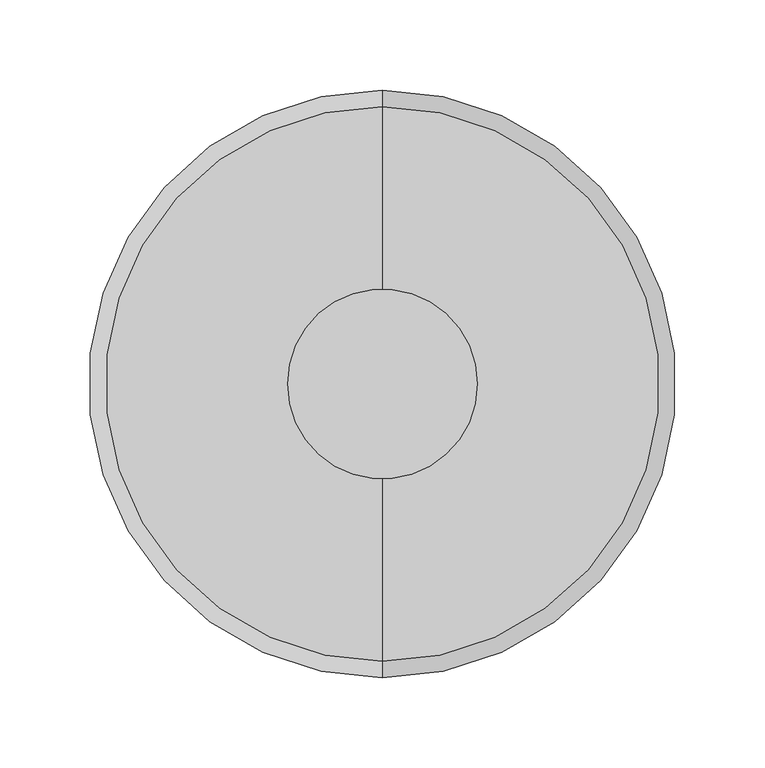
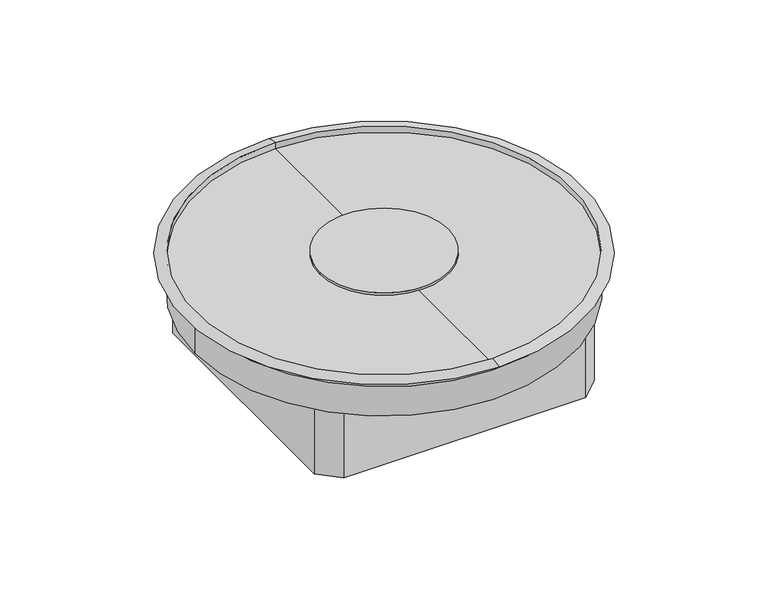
"""IFC4 building model written with IfcOpenShell, lengths in millimetres: proxy geometry, Electrical_Installation_Hager_VE-EE_VANR_3mm_Service-unit-for-wet-cleaned-floors-for-the-installation-tube-cable-outlet-made-of-aluminium : Service unit R12 w wet BD wet Al-Tub 3mm."""

from ifc_helpers import new_model, si_unit, point, frame, origin, origin_with_axes, origin_2d, place, context, project, spatial, polyline, circle_curve, ellipse_curve, trimmed, segment, composite_curve, outline, extrude, source, transform, mapped, element, save
from ifc_brep_helpers import plane_surface, cylinder_surface, revolved_surface, advanced_brep


def electrical_fixtures_e9da0c22(model_context):
    return source(origin(), model_context, "Body", "SolidModel", [
        extrude(outline(composite_curve([segment(trimmed(circle_curve(origin_2d(), 52.5), [point((52.5, 0.0))], [point((-52.5, 0.0))], False, "CARTESIAN"), True, "CONTINUOUS"), segment(trimmed(circle_curve(origin_2d(), 52.5), [point((-52.5, 0.0))], [point((52.5, 0.0))], False, "CARTESIAN"), True, "CONTINUOUS")], self_intersect=False)), origin_with_axes(), (0.0, 0.0, 1.0), 2.0),
        advanced_brep(
        [(-154.0, 0.0, -33.0), (154.0, 0.0, -33.0), (-114.5, -96.120731, -33.0), (-96.120731, -114.5, -33.0), (96.120731, -114.5, -33.0), (114.5, -96.120731, -33.0), (114.5, 96.120731, -33.0), (96.120731, 114.5, -33.0), (-96.120731, 114.5, -33.0), (-114.5, 96.120731, -33.0), (154.0, 0.0, -7.8389514), (0.0, -154.0, -7.8389514), (-154.0, 0.0, -7.8389514), (0.0, 154.0, -7.8389514), (-114.5, 96.120731, -7.8389514), (-114.5, -96.120731, -7.8389514), (-96.120731, 114.5, -7.8389514), (96.120731, 114.5, -7.8389514), (0.0, 114.5, -7.8389514), (114.5, 96.120731, -7.8389514), (114.5, -96.120731, -7.8389514), (96.120731, -114.5, -7.8389514), (-96.120731, -114.5, -7.8389514), (0.0, -114.5, -7.8389514), (0.0, -153.5042598, -3.0), (0.0, 153.5042598, -3.0), (0.0, 153.5042598, 1.9903608), (0.0, -153.5042598, 1.9903608), (0.0, 0.0, -3.0), (0.0, 162.5, 0.0), (0.0, -162.5, 0.0), (0.0, 0.0, -7.8389514), (0.0, 154.0, 0.0), (0.0, -154.0, 0.0)],
        [
            (0, 1, circle_curve(frame((0.0, 0.0, -33.0), z_axis=(0.0, 0.0, -1.0), x_axis=(1.0, 0.0, 0.0)), 154.0)),
            (1, 0, circle_curve(frame((0.0, 0.0, -33.0), z_axis=(0.0, 0.0, -1.0), x_axis=(1.0, 0.0, 0.0)), 154.0)),
            (2, 3, circle_curve(frame((0.0, 0.0, -33.0), z_axis=(0.0, 0.0, 1.0), x_axis=(1.0, 0.0, 0.0)), 149.4973074)),
            (3, 4),
            (4, 5, circle_curve(frame((0.0, 0.0, -33.0), z_axis=(0.0, 0.0, 1.0), x_axis=(1.0, 0.0, 0.0)), 149.4973074)),
            (5, 6),
            (6, 7, circle_curve(frame((0.0, 0.0, -33.0), z_axis=(0.0, 0.0, 1.0), x_axis=(1.0, 0.0, 0.0)), 149.4973074)),
            (7, 8),
            (8, 9, circle_curve(frame((0.0, 0.0, -33.0), z_axis=(0.0, 0.0, 1.0), x_axis=(1.0, 0.0, 0.0)), 149.4973074)),
            (9, 2),
            (1, 10),
            (10, 11, circle_curve(frame((0.0, 0.0, -7.8389514), z_axis=(0.0, 0.0, -1.0), x_axis=(1.0, 0.0, 0.0)), 154.0)),
            (11, 12, circle_curve(frame((0.0, 0.0, -7.8389514), z_axis=(0.0, 0.0, -1.0), x_axis=(1.0, 0.0, 0.0)), 154.0)),
            (12, 0),
            (12, 13, circle_curve(frame((0.0, 0.0, -7.8389514), z_axis=(0.0, 0.0, -1.0), x_axis=(1.0, 0.0, 0.0)), 154.0)),
            (13, 10, circle_curve(frame((0.0, 0.0, -7.8389514), z_axis=(0.0, 0.0, -1.0), x_axis=(1.0, 0.0, 0.0)), 154.0)),
            (9, 14),
            (14, 15),
            (15, 2),
            (8, 16),
            (16, 14, circle_curve(frame((0.0, 0.0, -7.8389514), z_axis=(0.0, 0.0, 1.0), x_axis=(1.0, 0.0, 0.0)), 149.4973074)),
            (7, 17),
            (17, 18),
            (18, 16),
            (6, 19),
            (19, 17, circle_curve(frame((0.0, 0.0, -7.8389514), z_axis=(0.0, 0.0, 1.0), x_axis=(1.0, 0.0, 0.0)), 149.4973074)),
            (5, 20),
            (20, 19),
            (4, 21),
            (21, 20, circle_curve(frame((0.0, 0.0, -7.8389514), z_axis=(0.0, 0.0, 1.0), x_axis=(1.0, 0.0, 0.0)), 149.4973074)),
            (3, 22),
            (22, 23),
            (23, 21),
            (15, 22, circle_curve(frame((0.0, 0.0, -7.8389514), z_axis=(0.0, 0.0, 1.0), x_axis=(1.0, 0.0, 0.0)), 149.4973074)),
            (24, 25, circle_curve(frame((0.0, 0.0, -3.0), z_axis=(0.0, 0.0, -1.0), x_axis=(0.0, 1.0, 0.0)), 153.5042598)),
            (25, 26),
            (26, 27, circle_curve(frame((0.0, 0.0, 1.9903608), z_axis=(0.0, 0.0, 1.0), x_axis=(0.0, 1.0, 0.0)), 153.5042598)),
            (27, 24),
            (25, 24, circle_curve(frame((0.0, 0.0, -3.0), z_axis=(0.0, 0.0, -1.0), x_axis=(0.0, 1.0, 0.0)), 153.5042598)),
            (27, 26, circle_curve(frame((0.0, 0.0, 1.9903608), z_axis=(0.0, 0.0, 1.0), x_axis=(0.0, 1.0, 0.0)), 153.5042598)),
            (24, 28),
            (28, 25),
            (26, 29, circle_curve(frame((0.0, 153.3087254, -20.2173795), z_axis=(-1.0, 0.0, 0.0), x_axis=(0.0, 1.0, 0.0)), 22.2086011)),
            (29, 30, circle_curve(frame((0.0, 0.0, 0.0), z_axis=(0.0, 0.0, 1.0), x_axis=(0.0, 1.0, 0.0)), 162.5)),
            (30, 27, circle_curve(frame((0.0, -153.3087254, -20.2173795), z_axis=(-1.0, 0.0, 0.0), x_axis=(0.0, -1.0, 0.0)), 22.2086011)),
            (30, 29, circle_curve(frame((0.0, 0.0, 0.0), z_axis=(0.0, 0.0, 1.0), x_axis=(0.0, 1.0, 0.0)), 162.5)),
            (18, 31),
            (31, 23),
            (29, 32),
            (32, 33, circle_curve(frame((0.0, 0.0, 0.0), z_axis=(0.0, 0.0, 1.0), x_axis=(0.0, 1.0, 0.0)), 154.0)),
            (33, 30),
            (33, 32, circle_curve(frame((0.0, 0.0, 0.0), z_axis=(0.0, 0.0, 1.0), x_axis=(0.0, 1.0, 0.0)), 154.0)),
            (32, 13),
            (11, 33),
        ],
        [
            plane_surface(frame((154.0, 0.0, -33.0), z_axis=(0.0, 0.0, -1.0), x_axis=(0.0, -1.0, 0.0))),
            cylinder_surface(frame((0.0, 0.0, -33.0), z_axis=(0.0, 0.0, 1.0), x_axis=(1.0, 0.0, 0.0)), 154.0),
            plane_surface(frame((-114.5, -96.120731, -7.8389514), z_axis=(1.0, 0.0, 0.0), x_axis=(0.0, 0.0, -1.0))),
            revolved_surface(polyline([(149.4973074, 0.0, -33.0), (149.4973074, 0.0, -7.8389514)]), (0.0, 0.0, 0.0), (0.0, 0.0, -1.0)),
            plane_surface(frame((-96.120731, 114.5, -7.8389514), z_axis=(0.0, -1.0, 0.0), x_axis=(0.0, 0.0, -1.0))),
            plane_surface(frame((114.5, 96.120731, -7.8389514), z_axis=(-1.0, 0.0, 0.0), x_axis=(0.0, 0.0, -1.0))),
            plane_surface(frame((96.120731, -114.5, -7.8389514), z_axis=(0.0, 1.0, 0.0), x_axis=(0.0, 0.0, -1.0))),
            revolved_surface(polyline([(0.0, 153.5042598, 1.9903607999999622), (0.0, 153.5042598, -3.0)]), (0.0, 0.0, 2341.8067943), (0.0, 0.0, 1.0)),
            plane_surface(frame((0.0, 0.0, -3.0), z_axis=(0.0, 0.0, 1.0), x_axis=(0.0, 1.0, 0.0))),
            revolved_surface(trimmed(ellipse_curve(frame((0.0, 153.3087254, -20.2173795), z_axis=(1.0, 0.0, 0.0), x_axis=(0.0, 1.0, 0.0)), 22.2086011, 22.2086011), [point((0.0, 162.5, 0.0))], [point((0.0, 153.5042598, 1.9903608))], True, "CARTESIAN"), (0.0, 0.0, 2341.8067943), (0.0, 0.0, 1.0)),
            plane_surface(frame((0.0, 0.0, -7.8389514), z_axis=(0.0, 0.0, -1.0), x_axis=(0.0, 1.0, 0.0))),
            plane_surface(frame((0.0, 0.0, 0.0), z_axis=(0.0, 0.0, -1.0), x_axis=(0.0, 1.0, 0.0))),
            cylinder_surface(frame((0.0, 0.0, 2341.8067943), z_axis=(0.0, 0.0, 1.0), x_axis=(0.0, 1.0, 0.0)), 154.0),
        ],
        [
            (0, [[1, 2], [3, 4, 5, 6, 7, 8, 9, 10]]),
            (1, [[-2, 11, 12, 13, 14]]),
            (1, [[-1, -14, 15, 16, -11]]),
            (2, [[-10, 17, 18, 19]]),
            (3, [[-9, 20, 21, -17]]),
            (4, [[-8, 22, 23, 24, -20]]),
            (3, [[-7, 25, 26, -22]]),
            (5, [[-6, 27, 28, -25]]),
            (3, [[-5, 29, 30, -27]]),
            (6, [[-4, 31, 32, 33, -29]]),
            (3, [[-3, -19, 34, -31]]),
            (7, [[35, 36, 37, 38]]),
            (7, [[-36, 39, -38, 40]]),
            (8, [[-35, 41, 42]]),
            (8, [[-39, -42, -41]]),
            (9, [[-37, 43, 44, 45]]),
            (9, [[-40, -45, 46, -43]]),
            (10, [[47, 48, -32, -34, -18, -21, -24]]),
            (10, [[-47, -23, -26, -28, -30, -33, -48]]),
            (11, [[-44, 49, 50, 51]]),
            (11, [[-46, -51, 52, -49]]),
            (12, [[-50, 53, -15, -13, 54]]),
            (12, [[-53, -52, -54, -12, -16]]),
        ],
    ),
        extrude(outline(polyline([(-99.0882065, 114.5), (99.3942383, 114.5), (114.5, 99.0262113), (114.5, -98.7169494), (98.5882125, -114.5), (-98.7359175, -114.5), (-114.5, -99.7976183), (-114.5, 100.165624), (-99.0882065, 114.5)]), holes=[polyline([(111.0181904, 98.7695063), (98.7659338, 111.5), (-98.7903505, 111.5), (-111.5, 98.7903505), (-111.5, -98.7903505), (-98.7903505, -111.5), (98.2048826, -111.5), (111.0181904, -96.4986902), (111.0181904, 98.7695063)])]), frame((0.0, 0.0, -90.0), z_axis=(0.0, 0.0, 1.0), x_axis=(1.0, 0.0, 0.0)), (0.0, 0.0, 1.0), 57.0),
    ])


if __name__ == "__main__":
    model = new_model("IFC4")
    model_context = context("Model", 3, world=origin())
    ifc_project = project(units=[si_unit("LENGTHUNIT", "METRE", prefix="MILLI")], contexts=[model_context])
    site = spatial("IfcSite", under=ifc_project)
    building = spatial("IfcBuilding", under=site)
    placement = place(None, origin())
    electrical_fixtures_shape = electrical_fixtures_e9da0c22(model_context)
    element("IfcBuildingElementProxy", 1, Name="Electrical_Installation_Hager_VE-EE_VANR_3mm_Service-unit-for-wet-cleaned-floors-for-the-installation-tube-cable-outlet-made-of-aluminium : Service unit R12 w wet BD wet Al-Tub 3mm", ObjectType="Electrical_Installation_Hager_VE-EE_VANR_3mm_Service-unit-for-wet-cleaned-floors-for-the-installation-tube-cable-outlet-made-of-aluminium : Service unit R12 w wet BD wet Al-Tub 3mm", at=placement, inside=building, context=model_context, shape_type="MappedRepresentation", body=[
        mapped(electrical_fixtures_shape, transform((0.0, 0.0, 0.0), x_axis=(1.0, 0.0, 0.0), y_axis=(0.0, 1.0, 0.0), z_axis=(0.0, 0.0, 1.0))),
    ])
    save(model, "model.ifc")
